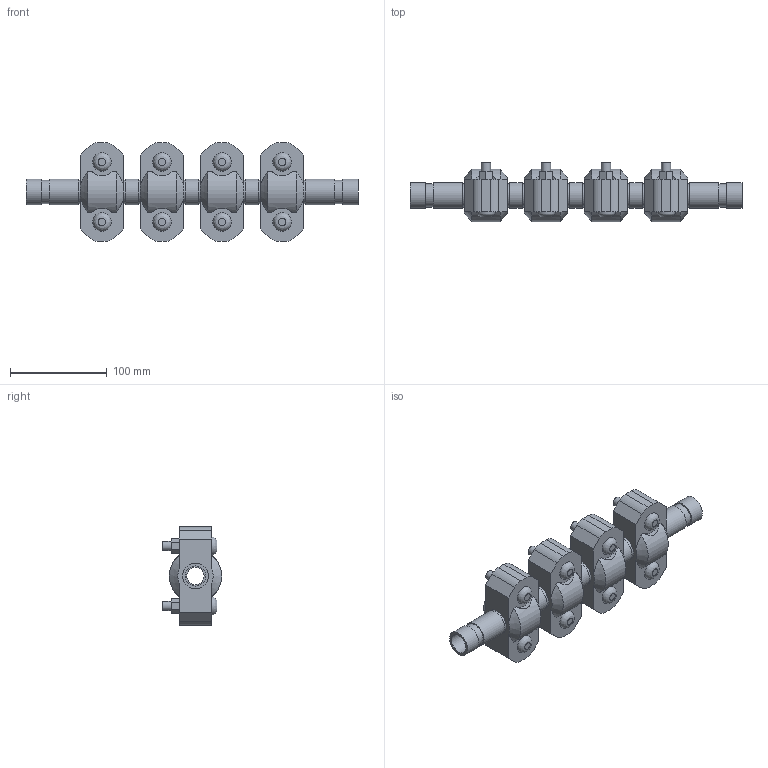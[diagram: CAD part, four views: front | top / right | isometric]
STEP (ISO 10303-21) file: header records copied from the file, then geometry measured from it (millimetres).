
FILE_DESCRIPTION(/* description */ ('VIC EXPANSION JOINT 4 COUPLINGS EXPANDED STYLE 155 (OGS)','CAx-IF Rec.Pracs.---Representation and Presentation of Product Manufacturing Information (PMI)---4.0---2014-10-13'),/* implementation_level */ '2;1');
FILE_NAME(/* name */ 'C:\Users\kkamble\AppData\Roaming\Autodesk\ApplicationPlugins\Victaulic.Temp\A310\Victaulic_IPS_Expansion Joint_Expanded_4 Couplings_Style 155 (OGS)_0.75 (20).stp',/* time_stamp */ '2021-06-26T23:59:53+02:00',/* author */ ('kkamble'),/* organization */ ('Victaulic'),/* preprocessor_version */ 'ST-DEVELOPER v17.2',/* originating_system */ 'Autodesk Inventor 2019',/* authorisation */ '');
FILE_SCHEMA (('AP242_MANAGED_MODEL_BASED_3D_ENGINEERING_MIM_LF { 1 0 10303 442 1 1 4 }'));
Length unit declared in the file: inch
Products named in the file (4): 155-0.75; Nipple-0.75; Nipple-0.75_1; 077-0.75
Assembly tree (9 placements, depth 2):
  155-0.75
    Nipple-0.75  x2
    Nipple-0.75_1  x3
    077-0.75  x4
Bounding box: 342.65 x 61.1 x 101.6 mm (x, y, z)
Volume: 628448.6 mm3; surface area: 164861.8 mm2
Topology: 9 solids, 17 shells, 304 faces, 730 edges, 512 vertices
Faces by surface type: plane 174, cylinder 106, cone 16, bspline 8
Full cylindrical faces by diameter (mm): 9.525 x16, 11.43 x8, 17.78 x4, 20.93 x5, 23.825 x10, 26.67 x23
Entity records: 2985 total; most frequent: CARTESIAN_POINT 585, DIRECTION 481, ORIENTED_EDGE 410, EDGE_CURVE 205, AXIS2_PLACEMENT_3D 192, VERTEX_POINT 146, EDGE_LOOP 111, LINE 97
